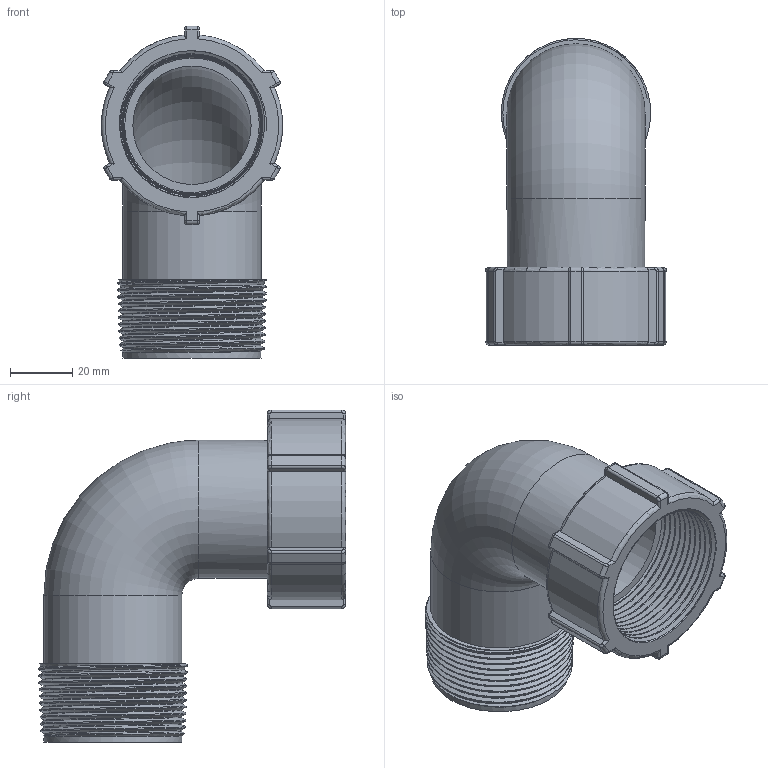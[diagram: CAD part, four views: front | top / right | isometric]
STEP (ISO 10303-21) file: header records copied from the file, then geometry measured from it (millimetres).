
FILE_DESCRIPTION(/* description */ ('Alibre Inc.'),/* implementation_level */ '2;1');
FILE_NAME(/* name */ 'export0',/* time_stamp */ '2016-11-29T14:56:28-05:00',/* author */ (''),/* organization */ (''),/* preprocessor_version */ 'ST-DEVELOPER v14',/* originating_system */ 'Alibre',/* authorisation */ '');
FILE_SCHEMA (('CONFIG_CONTROL_DESIGN'));
Length unit declared in the file: centimetre
Products named in the file (1): ID_3
Bounding box: 58.32 x 98.9 x 106.91 mm (x, y, z)
Volume: 77923 mm3; surface area: 45549.6 mm2
Topology: 1 solids, 1 shells, 187 faces, 495 edges, 313 vertices
Faces by surface type: cylinder 62, cone 58, torus 30, plane 23, bspline 14
Full cylindrical faces by diameter (mm): 38.1 x2, 44.45 x5
Entity records: 63327 total; most frequent: CARTESIAN_POINT 59191, ORIENTED_EDGE 950, DIRECTION 676, EDGE_CURVE 475, VERTEX_POINT 303, AXIS2_PLACEMENT_3D 279, EDGE_LOOP 196, FACE_BOUND 196
